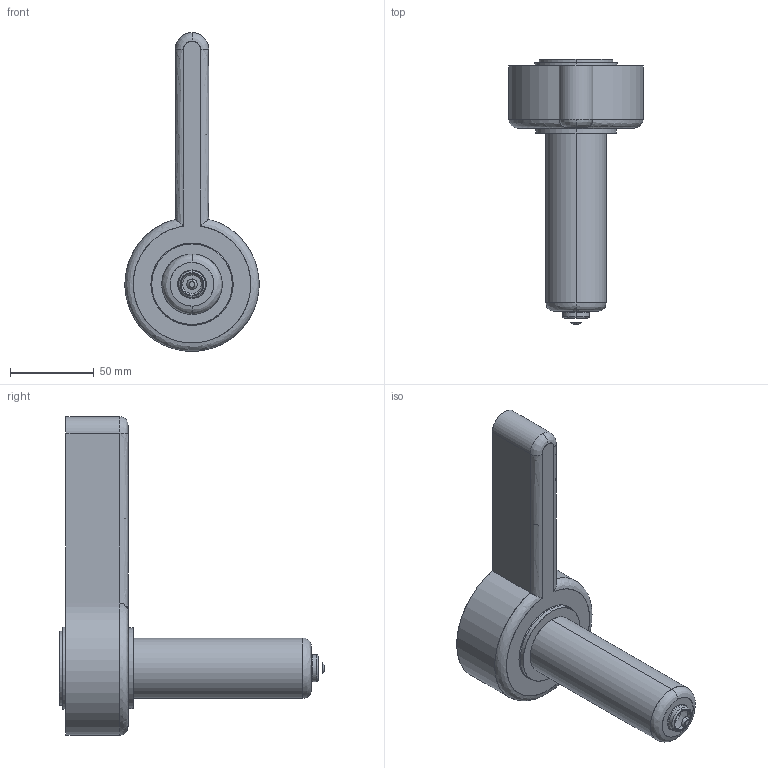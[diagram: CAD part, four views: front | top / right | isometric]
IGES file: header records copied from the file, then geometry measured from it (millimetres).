
Start section: SolidWorks IGES file using analytic representation for surfaces
Global section: file name: C:\Documents and Settings\ws-20\Desktop\TEM\Sede UGEP5503-S-A C-114 L-151 Ød-3.5.IGS; native system: SolidWorks 2012; preprocessor: SolidWorks 2012; author: ws-20; date: 120427.085627; units: millimetre
Bounding box: 79.96 x 158.29 x 190 mm (x, y, z)
Surface area: 43554.7 mm2 (no closed solid volume)
Topology: 0 solids, 0 shells, 44 faces, 952 edges, 952 vertices
Faces by surface type: revolution 27, bspline 17
